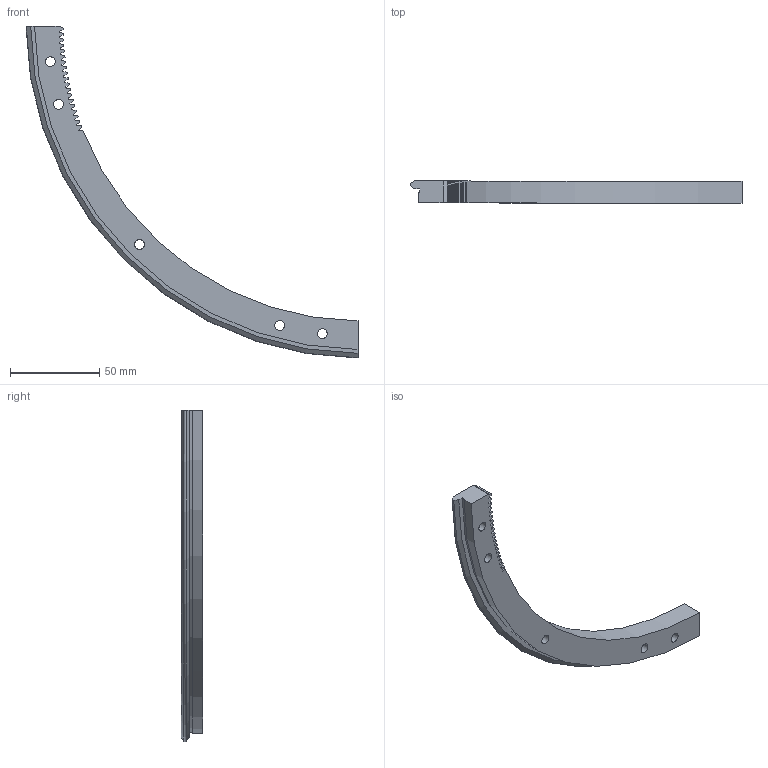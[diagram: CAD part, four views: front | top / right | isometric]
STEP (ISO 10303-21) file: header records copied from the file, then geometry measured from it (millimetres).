
FILE_DESCRIPTION( ( 'STEP AP203' ), '1' );
FILE_NAME( 'p:/temp/worker_32/temp/exporttempdir_4476_31_c52T9/format_0/TRES 376 R90 Q .stp', '2021-09-17T07:48:22', ( 'License CC BY-ND 4.0' ), ( 'CADENAS' ), ' ', 'PARTsolutions', ' ' );
FILE_SCHEMA( ( 'CONFIG_CONTROL_DESIGN' ) );
Length unit declared in the file: millimetre
Products named in the file (1): _TRES 376 R90 Q 
Bounding box: 186.3 x 12.25 x 186.3 mm (x, y, z)
Volume: 54081.5 mm3; surface area: 19944.7 mm2
Topology: 1 solids, 1 shells, 104 faces, 291 edges, 194 vertices
Faces by surface type: cylinder 51, plane 50, cone 2, torus 1
Full cylindrical faces by diameter (mm): 5.5 x5, 10 x5
Entity records: 3413 total; most frequent: CARTESIAN_POINT 610, DIRECTION 591, ORIENTED_EDGE 562, EDGE_CURVE 281, AXIS2_PLACEMENT_3D 211, VERTEX_POINT 194, LINE 169, VECTOR 169
